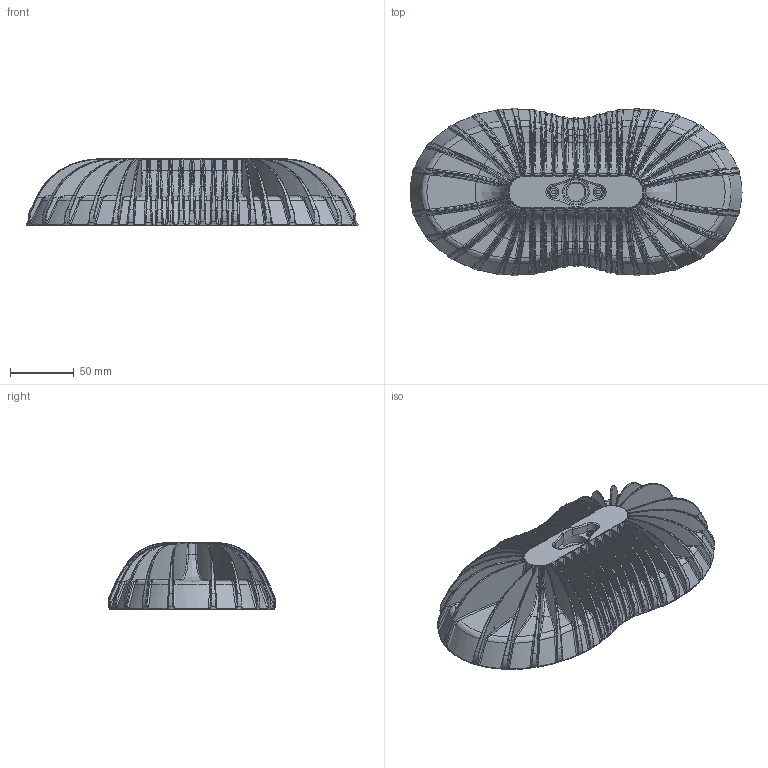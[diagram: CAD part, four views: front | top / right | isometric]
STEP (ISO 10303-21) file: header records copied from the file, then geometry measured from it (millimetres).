
FILE_DESCRIPTION(/* description */ (''),/* implementation_level */ '2;1');
FILE_NAME(/* name */ 'MODULO_PLUS_ME_COMPLETO',/* time_stamp */ '2012-08-30T10:49:30+02:00',/* author */ (''),/* organization */ (''),/* preprocessor_version */ 'ST-DEVELOPER v10',/* originating_system */ '',/* authorisation */ '');
FILE_SCHEMA (('CONFIG_CONTROL_DESIGN'));
Products named in the file (1): 1
Bounding box: 259.58 x 130.67 x 52 mm (x, y, z)
Volume: 81853.4 mm3; surface area: 239462.5 mm2
Topology: 3 solids, 1719 shells, 3783 faces, 10286 edges, 8063 vertices
Faces by surface type: bspline 3316, plane 467
Entity records: 302022 total; most frequent: CARTESIAN_POINT 241571, ORIENTED_EDGE 15060, EDGE_CURVE 10125, B_SPLINE_CURVE_WITH_KNOTS 8179, VERTEX_POINT 8076, EDGE_LOOP 3887, ADVANCED_FACE 3782, FACE_OUTER_BOUND 3782
